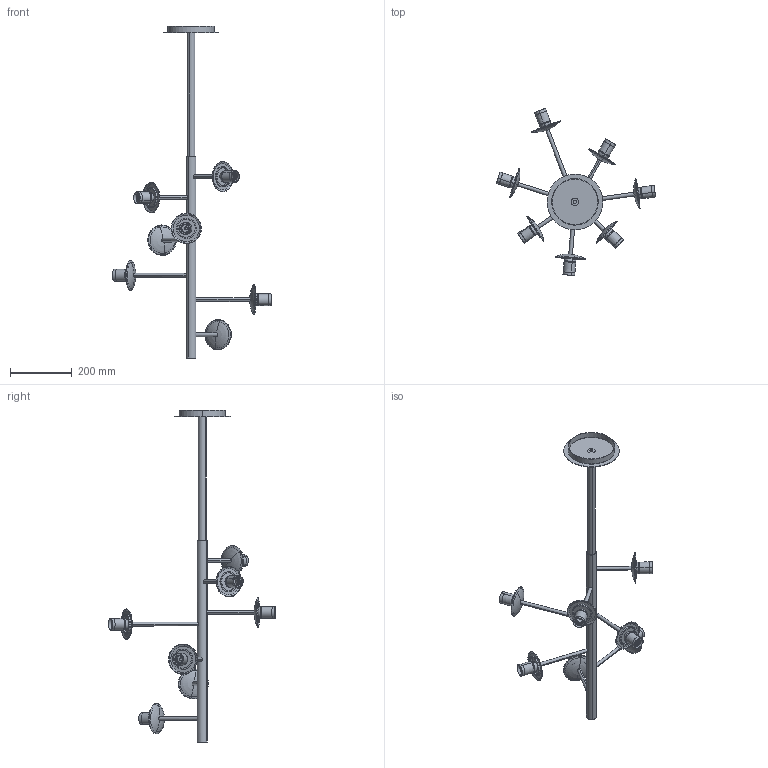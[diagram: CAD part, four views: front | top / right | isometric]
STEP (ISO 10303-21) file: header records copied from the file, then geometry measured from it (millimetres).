
FILE_DESCRIPTION (( 'STEP AP203' ), '1' );
FILE_NAME ('C3946580.STEP', '2026-02-13T12:36:45', ( '' ), ( '' ), 'SwSTEP 2.0', 'SolidWorks 2025', '' );
FILE_SCHEMA (( 'CONFIG_CONTROL_DESIGN' ));
Length unit declared in the file: millimetre
Products named in the file (6): CANOPY; BARRA; BaseParmaConCasquillo; Portalamparas E27 Parma; C3946580; Base Parma Shifa
Assembly tree (11 placements, depth 3):
  C3946580
    CANOPY
    BARRA
    BaseParmaConCasquillo  x7
      Base Parma Shifa
      Portalamparas E27 Parma
Bounding box: 513.48 x 539.61 x 1071 mm (x, y, z)
Volume: 1376709.2 mm3; surface area: 431594.5 mm2
Topology: 16 solids, 16 shells, 460 faces, 1010 edges, 626 vertices
Faces by surface type: cylinder 271, plane 91, torus 56, bspline 28, cone 14
Entity records: 5271 total; most frequent: CARTESIAN_POINT 2327, DIRECTION 488, ORIENTED_EDGE 424, EDGE_CURVE 212, AXIS2_PLACEMENT_3D 212, VERTEX_POINT 134, EDGE_LOOP 120, CIRCLE 101
